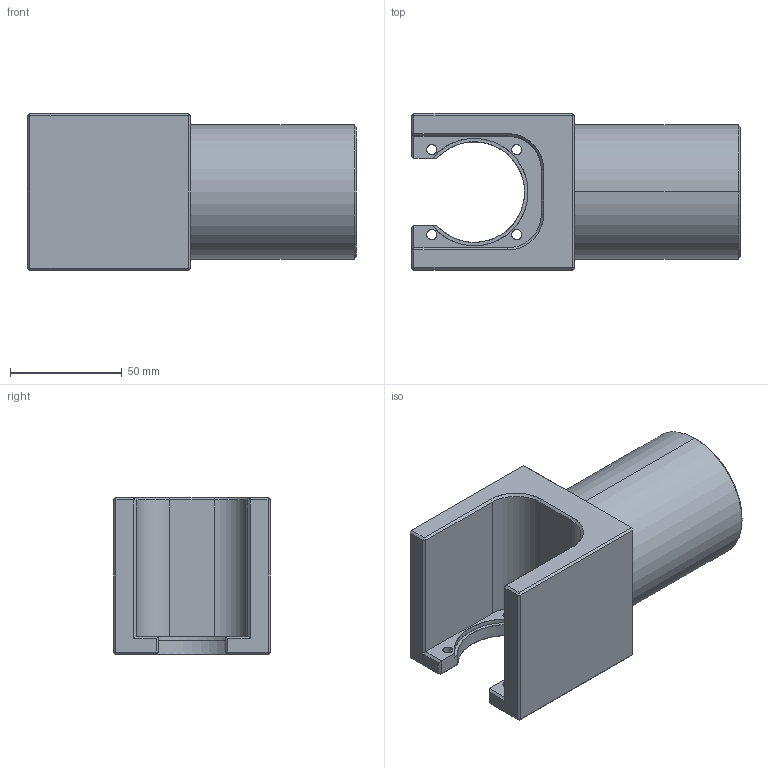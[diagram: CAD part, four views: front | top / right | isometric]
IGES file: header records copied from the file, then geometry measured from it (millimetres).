
Start section: SolidWorks IGES file using analytic representation for surfaces
Global section: file name: R:\Inventor\Kundmodeller Solidworks\Fästen\Swivel bracket BE22 041J004329.IGS; native system: SolidWorks 2008; preprocessor: SolidWorks 2008; author: Johan; date: 091015.081644; units: millimetre
Bounding box: 147 x 70 x 70 mm (x, y, z)
Surface area: 47374.2 mm2 (no closed solid volume)
Topology: 0 solids, 0 shells, 82 faces, 1160 edges, 1160 vertices
Faces by surface type: bspline 56, revolution 26
